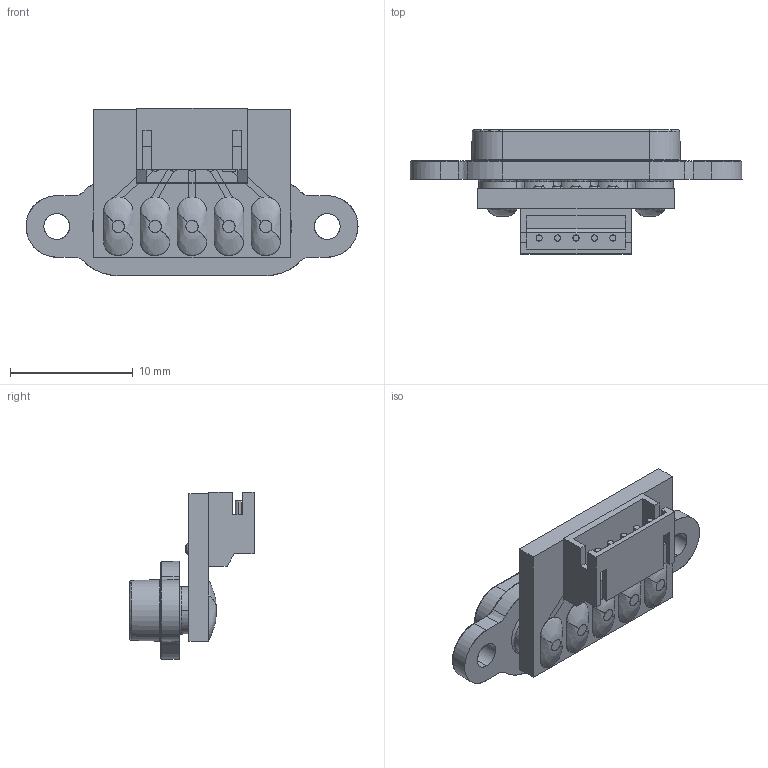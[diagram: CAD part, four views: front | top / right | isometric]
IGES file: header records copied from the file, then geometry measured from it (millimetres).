
Start section: SolidWorks IGES file using analytic representation for surfaces
Global section: file name: F:\OneDrive\Desktop\Coda\28.7\Swift-Dock add 3D\Swift-Dock add 3D\Swift-DOCK Ranges Completed\SD-Mini\SWIFT DOCK MINI-5PC-L.IGS; native system: SolidWorks 2021; preprocessor: SolidWorks 2021; author: Georg; date: 210728.143953; units: millimetre
Bounding box: 27 x 10.1 x 13.6 mm (x, y, z)
Surface area: 1878.9 mm2 (no closed solid volume)
Topology: 0 solids, 0 shells, 556 faces, 5982 edges, 5972 vertices
Faces by surface type: bspline 297, revolution 259
